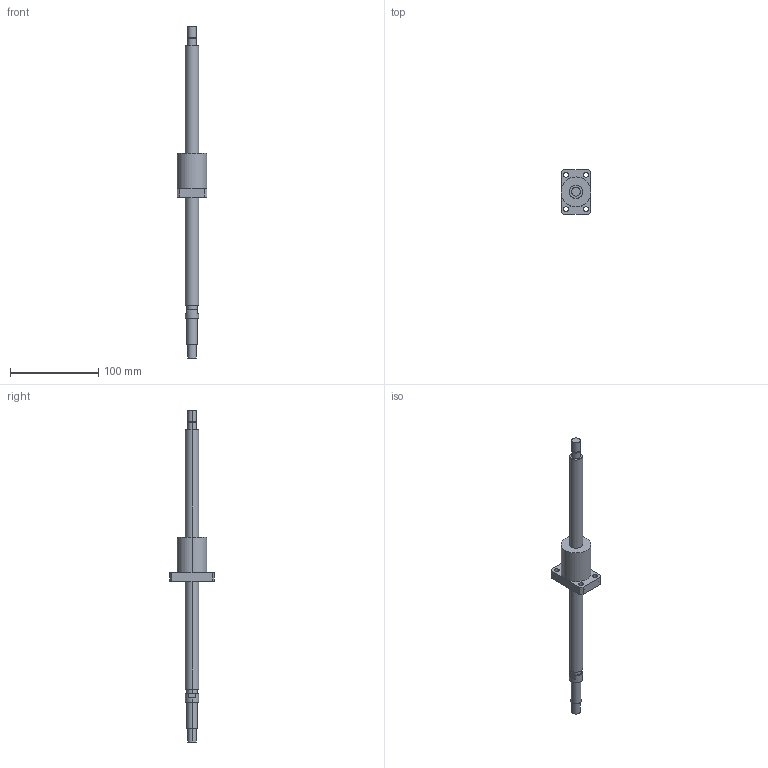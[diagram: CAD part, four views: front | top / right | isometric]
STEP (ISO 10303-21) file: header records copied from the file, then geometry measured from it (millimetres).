
FILE_DESCRIPTION((''),'2;1');
FILE_NAME('R15-10K3-FSC-289-371','2008-03-28T',('mahdi'),(''),'PRO/ENGINEER BY PARAMETRIC TECHNOLOGY CORPORATION, 2005070','PRO/ENGINEER BY PARAMETRIC TECHNOLOGY CORPORATION, 2005070','');
FILE_SCHEMA(('CONFIG_CONTROL_DESIGN'));
Length unit declared in the file: millimetre
Products named in the file (1): R15-10K3-FSC-289-371
Bounding box: 34 x 50 x 377 mm (x, y, z)
Volume: 103023.5 mm3; surface area: 24673.4 mm2
Topology: 1 solids, 1 shells, 66 faces, 148 edges, 96 vertices
Faces by surface type: cylinder 40, plane 26
Entity records: 1926 total; most frequent: DIRECTION 364, CARTESIAN_POINT 310, ORIENTED_EDGE 296, AXIS2_PLACEMENT_3D 150, EDGE_CURVE 148, VERTEX_POINT 96, EDGE_LOOP 86, CIRCLE 84
